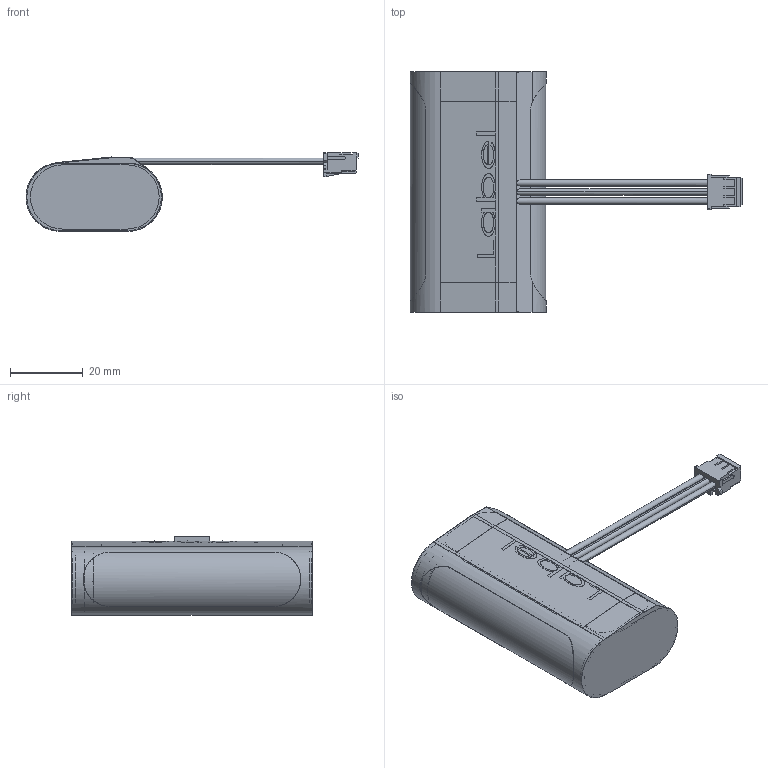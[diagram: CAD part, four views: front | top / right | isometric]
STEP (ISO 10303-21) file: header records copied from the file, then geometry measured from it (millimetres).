
FILE_DESCRIPTION((''),'2;1');
FILE_NAME('15013963Z_DMEC28003554_PACK_A','2020-10-13T16:21:29',('Juergen.Hrach'),(''),'CREO PARAMETRIC BY PTC INC, 2019164','CREO PARAMETRIC BY PTC INC, 2019164','');
FILE_SCHEMA(('CONFIG_CONTROL_DESIGN'));
Length unit declared in the file: millimetre
Products named in the file (1): 15013963Z_DMEC28003554_PACK_A
Bounding box: 91.57 x 66.38 x 21.73 mm (x, y, z)
Volume: 37577.4 mm3; surface area: 23232.2 mm2
Topology: 2 solids, 3 shells, 498 faces, 1444 edges, 949 vertices
Faces by surface type: plane 336, cylinder 101, bspline 61
Entity records: 25807 total; most frequent: CARTESIAN_POINT 13072, ORIENTED_EDGE 2888, DIRECTION 2279, EDGE_CURVE 1444, VECTOR 955, LINE 955, VERTEX_POINT 949, AXIS2_PLACEMENT_3D 662
